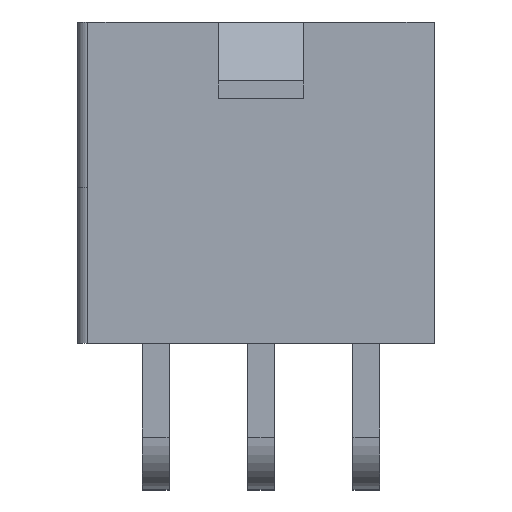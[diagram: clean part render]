
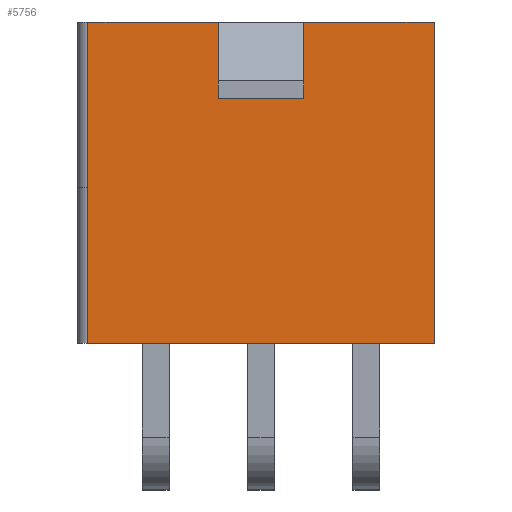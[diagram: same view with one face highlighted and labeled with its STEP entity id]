
A CAD part, top view. The second image highlights one B-rep face of the part: STEP entity #5756.
In plain terms, the highlighted planar face has unit normal (0, 0, 1).
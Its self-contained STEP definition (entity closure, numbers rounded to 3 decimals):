
#45 = PLANE('',#46);
#46 = AXIS2_PLACEMENT_3D('',#47,#48,#49);
#47 = CARTESIAN_POINT('',(7.184,1.1,-0.165));
#48 = DIRECTION('',(0.,1.,0.));
#49 = DIRECTION('',(-1.,0.,0.));
#124 = PLANE('',#125);
#125 = AXIS2_PLACEMENT_3D('',#126,#127,#128);
#126 = CARTESIAN_POINT('',(7.184,13.9,0.254));
#127 = DIRECTION('',(0.,1.,0.));
#128 = DIRECTION('',(-1.,0.,0.));
#3359 = VERTEX_POINT('',#3360);
#3360 = CARTESIAN_POINT('',(6.9,1.1,10.046));
#3374 = PLANE('',#3375);
#3375 = AXIS2_PLACEMENT_3D('',#3376,#3377,#3378);
#3376 = CARTESIAN_POINT('',(6.9,13.9,5.246));
#3377 = DIRECTION('',(-1.,0.,0.));
#3378 = DIRECTION('',(0.,-1.,0.));
#3386 = EDGE_CURVE('',#3359,#3387,#3389,.T.);
#3387 = VERTEX_POINT('',#3388);
#3388 = CARTESIAN_POINT('',(-6.9,1.1,10.046));
#3389 = SURFACE_CURVE('',#3390,(#3394,#3401),.PCURVE_S1.);
#3390 = LINE('',#3391,#3392);
#3391 = CARTESIAN_POINT('',(0.,1.1,10.046));
#3392 = VECTOR('',#3393,1.);
#3393 = DIRECTION('',(-1.,0.,-0.));
#3394 = PCURVE('',#45,#3395);
#3395 = DEFINITIONAL_REPRESENTATION('',(#3396),#3400);
#3396 = LINE('',#3397,#3398);
#3397 = CARTESIAN_POINT('',(7.184,10.21));
#3398 = VECTOR('',#3399,1.);
#3399 = DIRECTION('',(1.,0.));
#3400 = ( GEOMETRIC_REPRESENTATION_CONTEXT(2) 
PARAMETRIC_REPRESENTATION_CONTEXT() REPRESENTATION_CONTEXT('2D SPACE',''
  ) );
#3401 = PCURVE('',#3402,#3407);
#3402 = PLANE('',#3403);
#3403 = AXIS2_PLACEMENT_3D('',#3404,#3405,#3406);
#3404 = CARTESIAN_POINT('',(-7.176,0.844,10.046));
#3405 = DIRECTION('',(0.,0.,1.));
#3406 = DIRECTION('',(1.,0.,0.));
#3407 = DEFINITIONAL_REPRESENTATION('',(#3408),#3412);
#3408 = LINE('',#3409,#3410);
#3409 = CARTESIAN_POINT('',(7.176,0.256));
#3410 = VECTOR('',#3411,1.);
#3411 = DIRECTION('',(-1.,0.));
#3412 = ( GEOMETRIC_REPRESENTATION_CONTEXT(2) 
PARAMETRIC_REPRESENTATION_CONTEXT() REPRESENTATION_CONTEXT('2D SPACE',''
  ) );
#3430 = PLANE('',#3431);
#3431 = AXIS2_PLACEMENT_3D('',#3432,#3433,#3434);
#3432 = CARTESIAN_POINT('',(-6.9,0.844,0.254));
#3433 = DIRECTION('',(-1.,0.,0.));
#3434 = DIRECTION('',(0.,0.,1.));
#5180 = EDGE_CURVE('',#5181,#5183,#5185,.T.);
#5181 = VERTEX_POINT('',#5182);
#5182 = CARTESIAN_POINT('',(6.9,13.9,10.046));
#5183 = VERTEX_POINT('',#5184);
#5184 = CARTESIAN_POINT('',(1.7,13.9,10.046));
#5185 = SURFACE_CURVE('',#5186,(#5190,#5197),.PCURVE_S1.);
#5186 = LINE('',#5187,#5188);
#5187 = CARTESIAN_POINT('',(-0.2,13.9,10.046));
#5188 = VECTOR('',#5189,1.);
#5189 = DIRECTION('',(-1.,0.,-0.));
#5190 = PCURVE('',#124,#5191);
#5191 = DEFINITIONAL_REPRESENTATION('',(#5192),#5196);
#5192 = LINE('',#5193,#5194);
#5193 = CARTESIAN_POINT('',(7.384,9.792));
#5194 = VECTOR('',#5195,1.);
#5195 = DIRECTION('',(1.,0.));
#5196 = ( GEOMETRIC_REPRESENTATION_CONTEXT(2) 
PARAMETRIC_REPRESENTATION_CONTEXT() REPRESENTATION_CONTEXT('2D SPACE',''
  ) );
#5197 = PCURVE('',#3402,#5198);
#5198 = DEFINITIONAL_REPRESENTATION('',(#5199),#5203);
#5199 = LINE('',#5200,#5201);
#5200 = CARTESIAN_POINT('',(6.976,13.056));
#5201 = VECTOR('',#5202,1.);
#5202 = DIRECTION('',(-1.,0.));
#5203 = ( GEOMETRIC_REPRESENTATION_CONTEXT(2) 
PARAMETRIC_REPRESENTATION_CONTEXT() REPRESENTATION_CONTEXT('2D SPACE',''
  ) );
#5298 = VERTEX_POINT('',#5299);
#5299 = CARTESIAN_POINT('',(-6.9,13.9,10.046));
#5320 = EDGE_CURVE('',#5321,#5298,#5323,.T.);
#5321 = VERTEX_POINT('',#5322);
#5322 = CARTESIAN_POINT('',(-1.7,13.9,10.046));
#5323 = SURFACE_CURVE('',#5324,(#5328,#5335),.PCURVE_S1.);
#5324 = LINE('',#5325,#5326);
#5325 = CARTESIAN_POINT('',(-0.2,13.9,10.046));
#5326 = VECTOR('',#5327,1.);
#5327 = DIRECTION('',(-1.,0.,-0.));
#5328 = PCURVE('',#124,#5329);
#5329 = DEFINITIONAL_REPRESENTATION('',(#5330),#5334);
#5330 = LINE('',#5331,#5332);
#5331 = CARTESIAN_POINT('',(7.384,9.792));
#5332 = VECTOR('',#5333,1.);
#5333 = DIRECTION('',(1.,0.));
#5334 = ( GEOMETRIC_REPRESENTATION_CONTEXT(2) 
PARAMETRIC_REPRESENTATION_CONTEXT() REPRESENTATION_CONTEXT('2D SPACE',''
  ) );
#5335 = PCURVE('',#3402,#5336);
#5336 = DEFINITIONAL_REPRESENTATION('',(#5337),#5341);
#5337 = LINE('',#5338,#5339);
#5338 = CARTESIAN_POINT('',(6.976,13.056));
#5339 = VECTOR('',#5340,1.);
#5340 = DIRECTION('',(-1.,0.));
#5341 = ( GEOMETRIC_REPRESENTATION_CONTEXT(2) 
PARAMETRIC_REPRESENTATION_CONTEXT() REPRESENTATION_CONTEXT('2D SPACE',''
  ) );
#5756 = ADVANCED_FACE('',(#5757),#3402,.T.);
#5757 = FACE_BOUND('',#5758,.T.);
#5758 = EDGE_LOOP('',(#5759,#5760,#5781,#5782,#5810,#5838,#5864,#5865));
#5759 = ORIENTED_EDGE('',*,*,#3386,.F.);
#5760 = ORIENTED_EDGE('',*,*,#5761,.F.);
#5761 = EDGE_CURVE('',#5181,#3359,#5762,.T.);
#5762 = SURFACE_CURVE('',#5763,(#5767,#5774),.PCURVE_S1.);
#5763 = LINE('',#5764,#5765);
#5764 = CARTESIAN_POINT('',(6.9,1.1,10.046));
#5765 = VECTOR('',#5766,1.);
#5766 = DIRECTION('',(0.,-1.,0.));
#5767 = PCURVE('',#3402,#5768);
#5768 = DEFINITIONAL_REPRESENTATION('',(#5769),#5773);
#5769 = LINE('',#5770,#5771);
#5770 = CARTESIAN_POINT('',(14.076,0.256));
#5771 = VECTOR('',#5772,1.);
#5772 = DIRECTION('',(0.,-1.));
#5773 = ( GEOMETRIC_REPRESENTATION_CONTEXT(2) 
PARAMETRIC_REPRESENTATION_CONTEXT() REPRESENTATION_CONTEXT('2D SPACE',''
  ) );
#5774 = PCURVE('',#3374,#5775);
#5775 = DEFINITIONAL_REPRESENTATION('',(#5776),#5780);
#5776 = LINE('',#5777,#5778);
#5777 = CARTESIAN_POINT('',(12.8,4.8));
#5778 = VECTOR('',#5779,1.);
#5779 = DIRECTION('',(1.,0.));
#5780 = ( GEOMETRIC_REPRESENTATION_CONTEXT(2) 
PARAMETRIC_REPRESENTATION_CONTEXT() REPRESENTATION_CONTEXT('2D SPACE',''
  ) );
#5781 = ORIENTED_EDGE('',*,*,#5180,.T.);
#5782 = ORIENTED_EDGE('',*,*,#5783,.F.);
#5783 = EDGE_CURVE('',#5784,#5183,#5786,.T.);
#5784 = VERTEX_POINT('',#5785);
#5785 = CARTESIAN_POINT('',(1.7,10.85,10.046));
#5786 = SURFACE_CURVE('',#5787,(#5791,#5798),.PCURVE_S1.);
#5787 = LINE('',#5788,#5789);
#5788 = CARTESIAN_POINT('',(1.7,7.5,10.046));
#5789 = VECTOR('',#5790,1.);
#5790 = DIRECTION('',(0.,1.,0.));
#5791 = PCURVE('',#3402,#5792);
#5792 = DEFINITIONAL_REPRESENTATION('',(#5793),#5797);
#5793 = LINE('',#5794,#5795);
#5794 = CARTESIAN_POINT('',(8.876,6.656));
#5795 = VECTOR('',#5796,1.);
#5796 = DIRECTION('',(0.,1.));
#5797 = ( GEOMETRIC_REPRESENTATION_CONTEXT(2) 
PARAMETRIC_REPRESENTATION_CONTEXT() REPRESENTATION_CONTEXT('2D SPACE',''
  ) );
#5798 = PCURVE('',#5799,#5804);
#5799 = PLANE('',#5800);
#5800 = AXIS2_PLACEMENT_3D('',#5801,#5802,#5803);
#5801 = CARTESIAN_POINT('',(1.7,13.961,10.011));
#5802 = DIRECTION('',(-1.,0.,0.));
#5803 = DIRECTION('',(0.,-1.,0.));
#5804 = DEFINITIONAL_REPRESENTATION('',(#5805),#5809);
#5805 = LINE('',#5806,#5807);
#5806 = CARTESIAN_POINT('',(6.461,0.034));
#5807 = VECTOR('',#5808,1.);
#5808 = DIRECTION('',(-1.,0.));
#5809 = ( GEOMETRIC_REPRESENTATION_CONTEXT(2) 
PARAMETRIC_REPRESENTATION_CONTEXT() REPRESENTATION_CONTEXT('2D SPACE',''
  ) );
#5810 = ORIENTED_EDGE('',*,*,#5811,.F.);
#5811 = EDGE_CURVE('',#5812,#5784,#5814,.T.);
#5812 = VERTEX_POINT('',#5813);
#5813 = CARTESIAN_POINT('',(-1.7,10.85,10.046));
#5814 = SURFACE_CURVE('',#5815,(#5819,#5826),.PCURVE_S1.);
#5815 = LINE('',#5816,#5817);
#5816 = CARTESIAN_POINT('',(0.,10.85,10.046));
#5817 = VECTOR('',#5818,1.);
#5818 = DIRECTION('',(1.,0.,0.));
#5819 = PCURVE('',#3402,#5820);
#5820 = DEFINITIONAL_REPRESENTATION('',(#5821),#5825);
#5821 = LINE('',#5822,#5823);
#5822 = CARTESIAN_POINT('',(7.176,10.006));
#5823 = VECTOR('',#5824,1.);
#5824 = DIRECTION('',(1.,0.));
#5825 = ( GEOMETRIC_REPRESENTATION_CONTEXT(2) 
PARAMETRIC_REPRESENTATION_CONTEXT() REPRESENTATION_CONTEXT('2D SPACE',''
  ) );
#5826 = PCURVE('',#5827,#5832);
#5827 = PLANE('',#5828);
#5828 = AXIS2_PLACEMENT_3D('',#5829,#5830,#5831);
#5829 = CARTESIAN_POINT('',(1.768,10.85,10.011));
#5830 = DIRECTION('',(0.,-1.,0.));
#5831 = DIRECTION('',(0.,0.,1.));
#5832 = DEFINITIONAL_REPRESENTATION('',(#5833),#5837);
#5833 = LINE('',#5834,#5835);
#5834 = CARTESIAN_POINT('',(0.034,1.768));
#5835 = VECTOR('',#5836,1.);
#5836 = DIRECTION('',(0.,-1.));
#5837 = ( GEOMETRIC_REPRESENTATION_CONTEXT(2) 
PARAMETRIC_REPRESENTATION_CONTEXT() REPRESENTATION_CONTEXT('2D SPACE',''
  ) );
#5838 = ORIENTED_EDGE('',*,*,#5839,.F.);
#5839 = EDGE_CURVE('',#5321,#5812,#5840,.T.);
#5840 = SURFACE_CURVE('',#5841,(#5845,#5852),.PCURVE_S1.);
#5841 = LINE('',#5842,#5843);
#5842 = CARTESIAN_POINT('',(-1.7,7.5,10.046));
#5843 = VECTOR('',#5844,1.);
#5844 = DIRECTION('',(0.,-1.,0.));
#5845 = PCURVE('',#3402,#5846);
#5846 = DEFINITIONAL_REPRESENTATION('',(#5847),#5851);
#5847 = LINE('',#5848,#5849);
#5848 = CARTESIAN_POINT('',(5.476,6.656));
#5849 = VECTOR('',#5850,1.);
#5850 = DIRECTION('',(0.,-1.));
#5851 = ( GEOMETRIC_REPRESENTATION_CONTEXT(2) 
PARAMETRIC_REPRESENTATION_CONTEXT() REPRESENTATION_CONTEXT('2D SPACE',''
  ) );
#5852 = PCURVE('',#5853,#5858);
#5853 = PLANE('',#5854);
#5854 = AXIS2_PLACEMENT_3D('',#5855,#5856,#5857);
#5855 = CARTESIAN_POINT('',(-1.7,13.961,10.011));
#5856 = DIRECTION('',(-1.,0.,0.));
#5857 = DIRECTION('',(0.,-1.,0.));
#5858 = DEFINITIONAL_REPRESENTATION('',(#5859),#5863);
#5859 = LINE('',#5860,#5861);
#5860 = CARTESIAN_POINT('',(6.461,0.034));
#5861 = VECTOR('',#5862,1.);
#5862 = DIRECTION('',(1.,0.));
#5863 = ( GEOMETRIC_REPRESENTATION_CONTEXT(2) 
PARAMETRIC_REPRESENTATION_CONTEXT() REPRESENTATION_CONTEXT('2D SPACE',''
  ) );
#5864 = ORIENTED_EDGE('',*,*,#5320,.T.);
#5865 = ORIENTED_EDGE('',*,*,#5866,.F.);
#5866 = EDGE_CURVE('',#3387,#5298,#5867,.T.);
#5867 = SURFACE_CURVE('',#5868,(#5872,#5879),.PCURVE_S1.);
#5868 = LINE('',#5869,#5870);
#5869 = CARTESIAN_POINT('',(-6.9,7.5,10.046));
#5870 = VECTOR('',#5871,1.);
#5871 = DIRECTION('',(0.,1.,0.));
#5872 = PCURVE('',#3402,#5873);
#5873 = DEFINITIONAL_REPRESENTATION('',(#5874),#5878);
#5874 = LINE('',#5875,#5876);
#5875 = CARTESIAN_POINT('',(0.276,6.656));
#5876 = VECTOR('',#5877,1.);
#5877 = DIRECTION('',(0.,1.));
#5878 = ( GEOMETRIC_REPRESENTATION_CONTEXT(2) 
PARAMETRIC_REPRESENTATION_CONTEXT() REPRESENTATION_CONTEXT('2D SPACE',''
  ) );
#5879 = PCURVE('',#3430,#5880);
#5880 = DEFINITIONAL_REPRESENTATION('',(#5881),#5885);
#5881 = LINE('',#5882,#5883);
#5882 = CARTESIAN_POINT('',(9.792,6.656));
#5883 = VECTOR('',#5884,1.);
#5884 = DIRECTION('',(0.,1.));
#5885 = ( GEOMETRIC_REPRESENTATION_CONTEXT(2) 
PARAMETRIC_REPRESENTATION_CONTEXT() REPRESENTATION_CONTEXT('2D SPACE',''
  ) );
